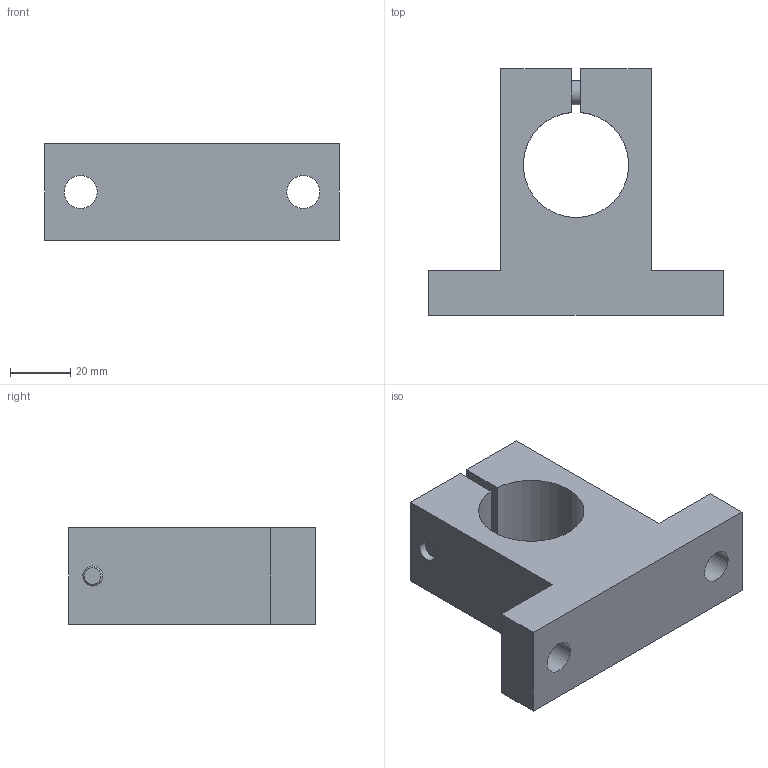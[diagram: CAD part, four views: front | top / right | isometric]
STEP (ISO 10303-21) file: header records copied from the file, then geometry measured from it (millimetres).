
FILE_DESCRIPTION(('STEP AP214'), '1');
FILE_NAME('SH35 - Äåðæàòåëü âàëà', '', ('UNSPECIFIED'), ('UNSPECIFIED'), 'ASCON STEP Converter 1.3', 'ASCON Math Kernel', '');
FILE_SCHEMA(('AUTOMOTIVE_DESIGN { 1 0 10303 214 3 1 1}'));
Length unit declared in the file: millimetre
Products named in the file (3): SH35
Assembly tree (2 placements, depth 2):
  SH35
    SH35
    (unnamed)
Bounding box: 98 x 82 x 32 mm (x, y, z)
Volume: 119158.2 mm3; surface area: 26793.3 mm2
Topology: 2 solids, 2 shells, 42 faces, 98 edges, 63 vertices
Faces by surface type: plane 29, cylinder 9, cone 4
Full cylindrical faces by diameter (mm): 6 x1, 6.647 x1, 8 x1, 8.5 x1, 11 x2, 13 x1, 14 x1
Entity records: 1765 total; most frequent: CARTESIAN_POINT 336, DIRECTION 196, ORIENTED_EDGE 170, EDGE_CURVE 85, AXIS2_PLACEMENT_3D 72, EDGE_LOOP 64, VERTEX_POINT 61, LINE 52
